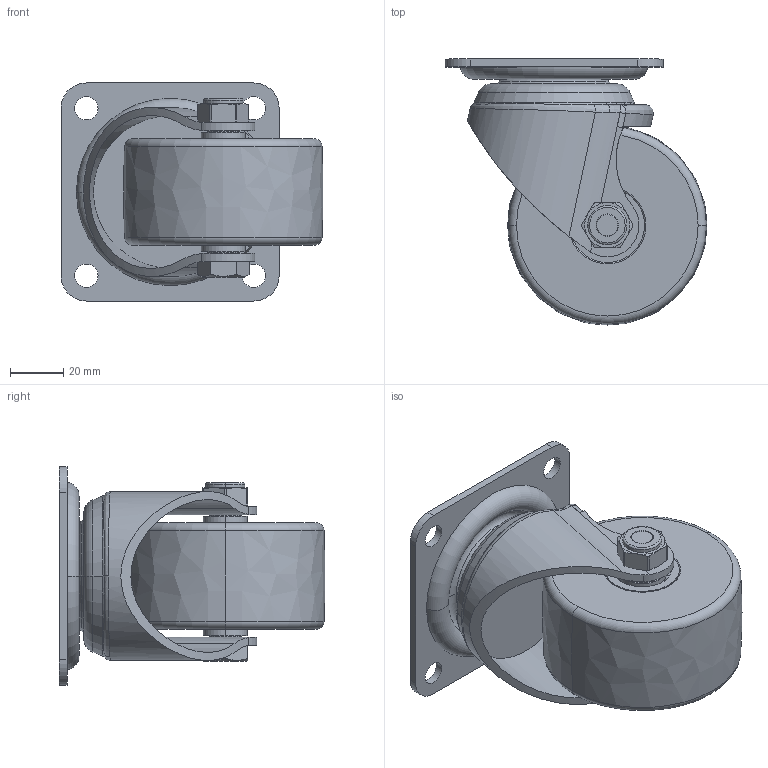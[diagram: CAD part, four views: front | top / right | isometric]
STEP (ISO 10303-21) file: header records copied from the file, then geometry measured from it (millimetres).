
FILE_DESCRIPTION((''),'2;1');
FILE_NAME('M433175-16_ASM','2022-01-15T',('lenovo'),(''),'PRO/ENGINEER BY PARAMETRIC TECHNOLOGY CORPORATION, 2010280','PRO/ENGINEER BY PARAMETRIC TECHNOLOGY CORPORATION, 2010280','');
FILE_SCHEMA(('CONFIG_CONTROL_DESIGN'));
Length unit declared in the file: millimetre
Products named in the file (10): M43375-311; M4330-201; M43075-916; 6001ZZ; 500-66; 640-54; M4375-16_ASM; M430-33; 640-34; M433175-16_ASM
Assembly tree (11 placements, depth 3):
  M433175-16_ASM
    M43375-311
    M4330-201
    M4375-16_ASM
      M43075-916
      6001ZZ  x2
      500-66  x2
      640-54
    M430-33
    640-34
Bounding box: 98.46 x 99.93 x 82 mm (x, y, z)
Volume: 236580.7 mm3; surface area: 69900.9 mm2
Topology: 42 solids, 42 shells, 278 faces, 677 edges, 365 vertices
Faces by surface type: cylinder 85, sphere 62, plane 54, torus 44, cone 24, bspline 9
Entity records: 7134 total; most frequent: CARTESIAN_POINT 1976, DIRECTION 1152, ORIENTED_EDGE 950, AXIS2_PLACEMENT_3D 513, EDGE_CURVE 475, VERTEX_POINT 303, CIRCLE 273, EDGE_LOOP 248
